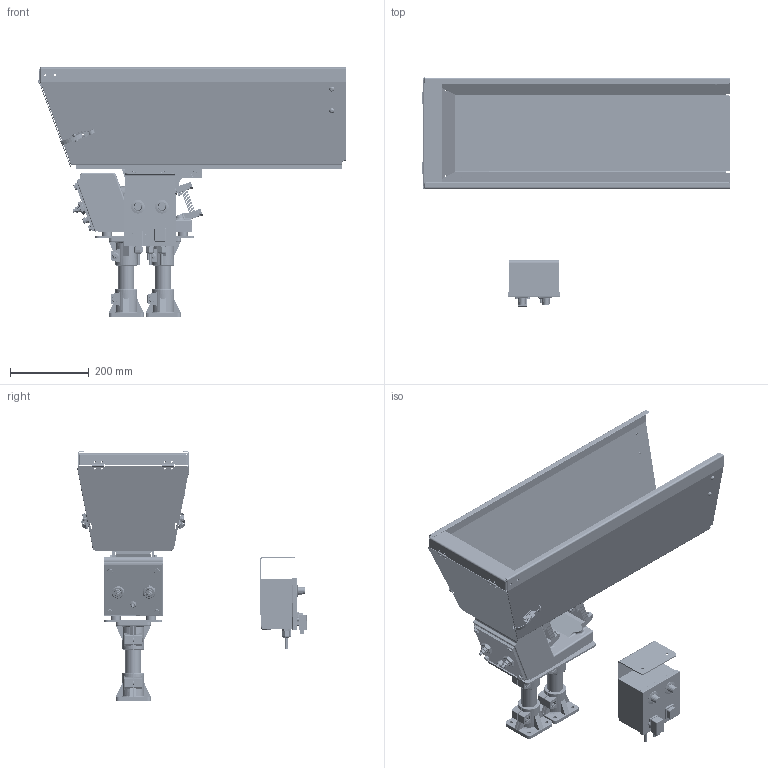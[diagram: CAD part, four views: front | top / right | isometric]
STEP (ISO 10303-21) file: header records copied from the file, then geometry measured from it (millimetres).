
FILE_DESCRIPTION (( 'STEP AP214' ), '1' );
FILE_NAME ('GM000298..step', '2026-10-16T12:33:35', ( '' ), ( '' ), 'SwSTEP 2.0', 'SolidWorks 2025', '' );
FILE_SCHEMA (( 'AUTOMOTIVE_DESIGN' ));
Length unit declared in the file: millimetre
Products named in the file (30): CM000923; CM000305; PD001338_001; CM000921; CM000979; PD001178; PD001341; CM000093; CM000305_003; CM000306; CM000306_002; CM000305_002; PD001337; PD001338_002; GM000298.; CM000561; CM000925; SM000080; PD001338; CE000026; CM000306_001; CM000432; CM000305_001; CM000306_003; PD001175; CM000934; PD001179; CM000922; PD000067
Assembly tree (46 placements, depth 3):
  CM000923
  CM000921
  GM000298.
    CM000561  x6
    CM000979  x6
    PD001338
      PD001338_001
      PD001338_002
    CM000306  x2
      CM000306_001
      CM000306_002
      CM000306_003
    CM000305
      CM000305_001
      CM000305_003
      CM000305_002
    CM000305
      CM000305_001
      CM000305_003
      CM000305_002
    PD001178
    PD001179
    CM000093
    PD001337
    PD001341
    PD001175
    CM000432  x4
    CE000026
    PD000067
    SM000080  x2
    CM000934  x4
  CM000925
  CM000922
Bounding box: 784.5 x 582.87 x 633.73 mm (x, y, z)
Volume: 7816563.4 mm3; surface area: 2469342.2 mm2
Topology: 44 solids, 110 shells, 9299 faces, 25548 edges, 16588 vertices
Faces by surface type: cylinder 6648, plane 1735, cone 514, torus 214, sphere 131, bspline 57
Entity records: 146398 total; most frequent: CARTESIAN_POINT 43129, ORIENTED_EDGE 21874, DIRECTION 20128, EDGE_CURVE 10937, AXIS2_PLACEMENT_3D 7950, VERTEX_POINT 6948, EDGE_LOOP 4777, ADVANCED_FACE 4306
